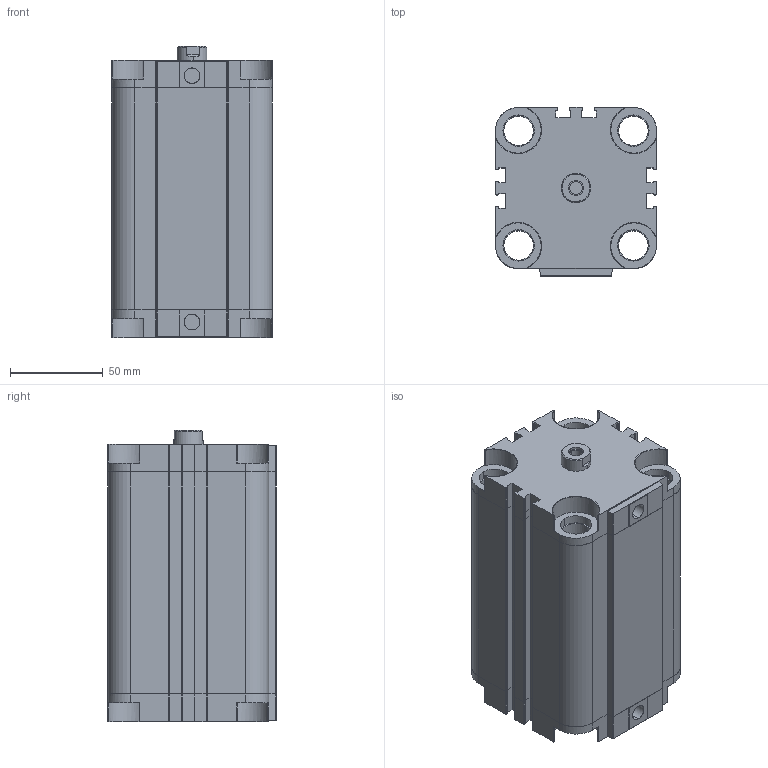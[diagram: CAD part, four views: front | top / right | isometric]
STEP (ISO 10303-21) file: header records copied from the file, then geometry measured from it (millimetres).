
FILE_DESCRIPTION (( 'STEP AP203' ), '1' );
FILE_NAME ('ADVU63X100-S-CYLINDER.STEP', '2015-05-23T10:50:14', ( 'user' ), ( '' ), 'SwSTEP 2.0', 'SolidWorks 2013', '' );
FILE_SCHEMA (( 'CONFIG_CONTROL_DESIGN' ));
Length unit declared in the file: millimetre
Products named in the file (6): ADVU 63-S ARKA KAPAK; ADVU 63X100-S BORU; ADVU 63-S 烰 KAPAK; ADVU 63-S ORTA PÝSTON; ADVU 63X100-S M尳; ADVU63X100-S-CYLINDER
Assembly tree (5 placements, depth 2):
  ADVU63X100-S-CYLINDER
    ADVU 63-S ARKA KAPAK
    ADVU 63X100-S BORU
    ADVU 63-S 烰 KAPAK
    ADVU 63-S ORTA PÝSTON
    ADVU 63X100-S M尳
Bounding box: 87 x 91.1 x 157.5 mm (x, y, z)
Volume: 640170.4 mm3; surface area: 173141.1 mm2
Topology: 6 solids, 6 shells, 552 faces, 1557 edges, 1042 vertices
Faces by surface type: cylinder 267, plane 233, cone 50, bspline 2
Entity records: 23025 total; most frequent: CARTESIAN_POINT 8918, ORIENTED_EDGE 3114, DIRECTION 2351, EDGE_CURVE 1557, VERTEX_POINT 1042, AXIS2_PLACEMENT_3D 813, VECTOR 725, LINE 725
